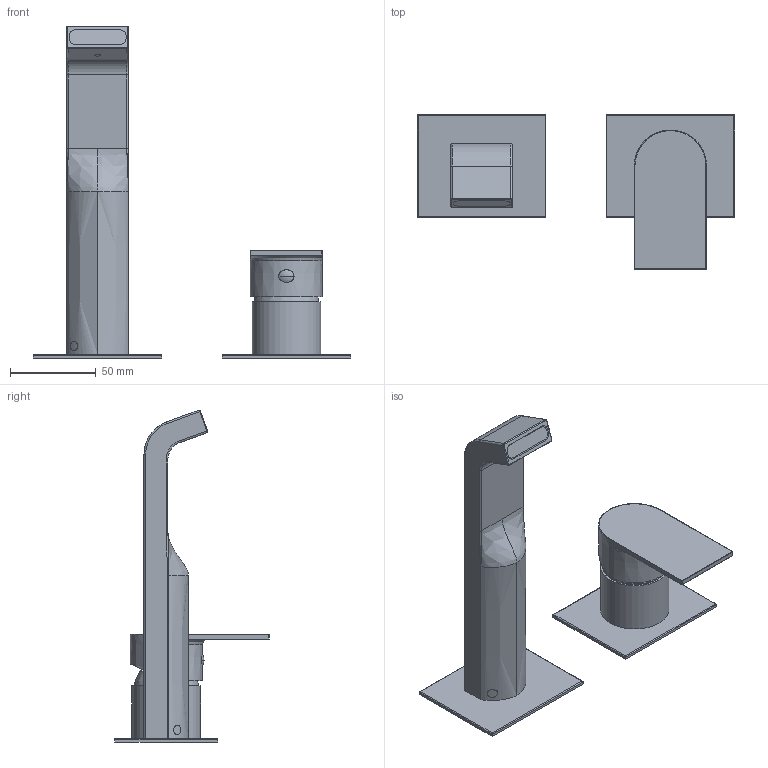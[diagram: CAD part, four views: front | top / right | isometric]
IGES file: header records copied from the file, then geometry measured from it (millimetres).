
Start section:  PTC IGES file: 83547_sw0001.igs
Global section: file name: 83547_sw0001.igs; native system: Creo Parametric by PTC Inc.; preprocessor: 2018100; author: volponeff; organization: Unknown; date: 20200918.135414; units: millimetre
Bounding box: 185 x 90 x 193.43 mm (x, y, z)
Surface area: 80833.2 mm2 (no closed solid volume)
Topology: 0 solids, 0 shells, 302 faces, 1382 edges, 1380 vertices
Faces by surface type: revolution 172, bspline 130
